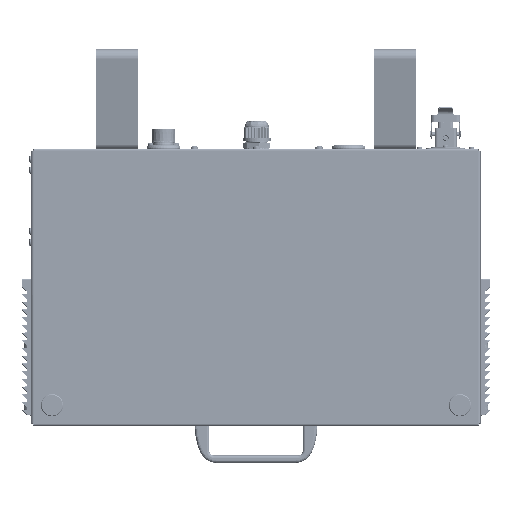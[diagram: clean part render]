
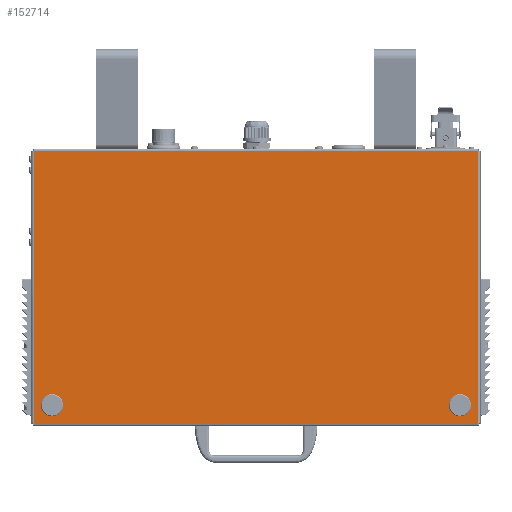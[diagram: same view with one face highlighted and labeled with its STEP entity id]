
A CAD part, front view. The second image highlights one B-rep face of the part: STEP entity #152714.
In plain terms, the highlighted planar face has unit normal (0, -1, 0).
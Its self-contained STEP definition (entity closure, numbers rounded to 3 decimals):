
#128 = AXIS2_PLACEMENT_3D ( 'NONE', #281333, #227507, #310623 ) ;
#8157 = ORIENTED_EDGE ( 'NONE', *, *, #319352, .F. ) ;
#9959 = ORIENTED_EDGE ( 'NONE', *, *, #25915, .F. ) ;
#15572 = CARTESIAN_POINT ( 'NONE',  ( 240.5, -1.2, 146.837 ) ) ;
#16677 = VERTEX_POINT ( 'NONE', #15572 ) ;
#21734 = CARTESIAN_POINT ( 'NONE',  ( -240.5, -1.2, 147.5 ) ) ;
#23512 = DIRECTION ( 'NONE',  ( 0., -1., 0. ) ) ;
#24968 = VERTEX_POINT ( 'NONE', #100980 ) ;
#25915 = EDGE_CURVE ( 'NONE', #16677, #66071, #266883, .T. ) ;
#29010 = DIRECTION ( 'NONE',  ( 0., 1., 0. ) ) ;
#29192 = DIRECTION ( 'NONE',  ( 0., 0., -1. ) ) ;
#30338 = DIRECTION ( 'NONE',  ( 0., -1., 0. ) ) ;
#35104 = CIRCLE ( 'NONE', #329977, 1. ) ;
#43297 = AXIS2_PLACEMENT_3D ( 'NONE', #73261, #208931, #235864 ) ;
#46356 = CIRCLE ( 'NONE', #278440, 4. ) ;
#46550 = CARTESIAN_POINT ( 'NONE',  ( -239.837, -1.2, 147.5 ) ) ;
#51617 = EDGE_LOOP ( 'NONE', ( #315456, #251949 ) ) ;
#55814 = VERTEX_POINT ( 'NONE', #73298 ) ;
#60112 = CARTESIAN_POINT ( 'NONE',  ( -220.5, -1.2, -123.5 ) ) ;
#63519 = CIRCLE ( 'NONE', #135784, 4. ) ;
#64129 = EDGE_CURVE ( 'NONE', #120326, #291894, #276135, .T. ) ;
#66071 = VERTEX_POINT ( 'NONE', #319797 ) ;
#73261 = CARTESIAN_POINT ( 'NONE',  ( -240.793, -1.2, -147.793 ) ) ;
#73298 = CARTESIAN_POINT ( 'NONE',  ( -220.5, -1.2, -131.5 ) ) ;
#79092 = EDGE_LOOP ( 'NONE', ( #146219, #161273 ) ) ;
#81169 = DIRECTION ( 'NONE',  ( 0., -1., 0. ) ) ;
#82367 = EDGE_CURVE ( 'NONE', #158233, #120326, #35104, .T. ) ;
#84010 = DIRECTION ( 'NONE',  ( 0., 0., 1. ) ) ;
#100980 = CARTESIAN_POINT ( 'NONE',  ( 239.837, -1.2, -147.5 ) ) ;
#102088 = VERTEX_POINT ( 'NONE', #229429 ) ;
#104128 = DIRECTION ( 'NONE',  ( 0., 0., -1. ) ) ;
#105422 = DIRECTION ( 'NONE',  ( 0., 0., -1. ) ) ;
#110061 = EDGE_CURVE ( 'NONE', #273769, #231285, #226691, .T. ) ;
#110255 = CARTESIAN_POINT ( 'NONE',  ( -240.5, -1.2, -147.5 ) ) ;
#113654 = EDGE_CURVE ( 'NONE', #291894, #16677, #133096, .T. ) ;
#120326 = VERTEX_POINT ( 'NONE', #46550 ) ;
#131907 = ORIENTED_EDGE ( 'NONE', *, *, #200105, .F. ) ;
#132784 = CARTESIAN_POINT ( 'NONE',  ( 220.5, -1.2, -127.5 ) ) ;
#133096 = CIRCLE ( 'NONE', #128, 1. ) ;
#135784 = AXIS2_PLACEMENT_3D ( 'NONE', #132784, #81169, #242664 ) ;
#138797 = EDGE_CURVE ( 'NONE', #308413, #55814, #46356, .T. ) ;
#139516 = FACE_BOUND ( 'NONE', #51617, .T. ) ;
#141707 = DIRECTION ( 'NONE',  ( 0., 0., -1. ) ) ;
#145678 = EDGE_LOOP ( 'NONE', ( #9959, #180768, #317263, #165880, #8157, #279344, #131907, #268869 ) ) ;
#146219 = ORIENTED_EDGE ( 'NONE', *, *, #228608, .F. ) ;
#152714 = ADVANCED_FACE ( 'NONE', ( #139516, #336261, #248206 ), #293610, .F. ) ;
#158233 = VERTEX_POINT ( 'NONE', #262302 ) ;
#160838 = DIRECTION ( 'NONE',  ( 0., -1., 0. ) ) ;
#161273 = ORIENTED_EDGE ( 'NONE', *, *, #138797, .F. ) ;
#165880 = ORIENTED_EDGE ( 'NONE', *, *, #82367, .F. ) ;
#170020 = CARTESIAN_POINT ( 'NONE',  ( -239.837, -1.2, -147.5 ) ) ;
#173383 = LINE ( 'NONE', #244724, #324262 ) ;
#180768 = ORIENTED_EDGE ( 'NONE', *, *, #113654, .F. ) ;
#181155 = AXIS2_PLACEMENT_3D ( 'NONE', #189505, #30338, #29192 ) ;
#183631 = DIRECTION ( 'NONE',  ( 0., -1., 0. ) ) ;
#187088 = CARTESIAN_POINT ( 'NONE',  ( 220.5, -1.2, -123.5 ) ) ;
#187343 = CARTESIAN_POINT ( 'NONE',  ( 240.5, -1.2, -147.5 ) ) ;
#187662 = CARTESIAN_POINT ( 'NONE',  ( 220.5, -1.2, -131.5 ) ) ;
#188327 = VERTEX_POINT ( 'NONE', #170020 ) ;
#189505 = CARTESIAN_POINT ( 'NONE',  ( 240.793, -1.2, -147.793 ) ) ;
#192037 = DIRECTION ( 'NONE',  ( 0., 0., 1. ) ) ;
#200105 = EDGE_CURVE ( 'NONE', #24968, #188327, #333844, .T. ) ;
#205412 = CIRCLE ( 'NONE', #43297, 1. ) ;
#208931 = DIRECTION ( 'NONE',  ( 0., -1., 0. ) ) ;
#212294 = DIRECTION ( 'NONE',  ( 0., 0., -1. ) ) ;
#213912 = CARTESIAN_POINT ( 'NONE',  ( 0., -1.2, 0. ) ) ;
#214385 = DIRECTION ( 'NONE',  ( -1., 0., 0. ) ) ;
#226691 = CIRCLE ( 'NONE', #313526, 4. ) ;
#227507 = DIRECTION ( 'NONE',  ( 0., -1., 0. ) ) ;
#228608 = EDGE_CURVE ( 'NONE', #55814, #308413, #258750, .T. ) ;
#228962 = VECTOR ( 'NONE', #214385, 1000. ) ;
#229429 = CARTESIAN_POINT ( 'NONE',  ( -240.5, -1.2, -146.837 ) ) ;
#231285 = VERTEX_POINT ( 'NONE', #187662 ) ;
#235851 = DIRECTION ( 'NONE',  ( 1., 0., 0. ) ) ;
#235864 = DIRECTION ( 'NONE',  ( 0., 0., -1. ) ) ;
#242664 = DIRECTION ( 'NONE',  ( 0., 0., -1. ) ) ;
#244724 = CARTESIAN_POINT ( 'NONE',  ( -240.5, -1.2, -147.5 ) ) ;
#248206 = FACE_OUTER_BOUND ( 'NONE', #145678, .T. ) ;
#251286 = CIRCLE ( 'NONE', #181155, 1. ) ;
#251949 = ORIENTED_EDGE ( 'NONE', *, *, #110061, .F. ) ;
#255770 = CARTESIAN_POINT ( 'NONE',  ( -220.5, -1.2, -127.5 ) ) ;
#258750 = CIRCLE ( 'NONE', #325584, 4. ) ;
#262302 = CARTESIAN_POINT ( 'NONE',  ( -240.5, -1.2, 146.837 ) ) ;
#266883 = LINE ( 'NONE', #187343, #317306 ) ;
#268869 = ORIENTED_EDGE ( 'NONE', *, *, #284465, .F. ) ;
#273769 = VERTEX_POINT ( 'NONE', #187088 ) ;
#276135 = LINE ( 'NONE', #21734, #326603 ) ;
#278440 = AXIS2_PLACEMENT_3D ( 'NONE', #255770, #282685, #336598 ) ;
#279344 = ORIENTED_EDGE ( 'NONE', *, *, #313085, .F. ) ;
#281333 = CARTESIAN_POINT ( 'NONE',  ( 240.793, -1.2, 147.793 ) ) ;
#282685 = DIRECTION ( 'NONE',  ( 0., -1., 0. ) ) ;
#284465 = EDGE_CURVE ( 'NONE', #66071, #24968, #251286, .T. ) ;
#288036 = CARTESIAN_POINT ( 'NONE',  ( -240.793, -1.2, 147.793 ) ) ;
#288731 = CARTESIAN_POINT ( 'NONE',  ( 239.837, -1.2, 147.5 ) ) ;
#291894 = VERTEX_POINT ( 'NONE', #288731 ) ;
#292515 = EDGE_CURVE ( 'NONE', #231285, #273769, #63519, .T. ) ;
#293610 = PLANE ( 'NONE',  #301603 ) ;
#294842 = CARTESIAN_POINT ( 'NONE',  ( 220.5, -1.2, -127.5 ) ) ;
#301603 = AXIS2_PLACEMENT_3D ( 'NONE', #213912, #29010, #84010 ) ;
#308413 = VERTEX_POINT ( 'NONE', #60112 ) ;
#310623 = DIRECTION ( 'NONE',  ( 0., 0., -1. ) ) ;
#313085 = EDGE_CURVE ( 'NONE', #188327, #102088, #205412, .T. ) ;
#313526 = AXIS2_PLACEMENT_3D ( 'NONE', #294842, #183631, #104128 ) ;
#315456 = ORIENTED_EDGE ( 'NONE', *, *, #292515, .F. ) ;
#317263 = ORIENTED_EDGE ( 'NONE', *, *, #64129, .F. ) ;
#317306 = VECTOR ( 'NONE', #141707, 1000. ) ;
#319352 = EDGE_CURVE ( 'NONE', #102088, #158233, #173383, .T. ) ;
#319797 = CARTESIAN_POINT ( 'NONE',  ( 240.5, -1.2, -146.837 ) ) ;
#321229 = CARTESIAN_POINT ( 'NONE',  ( -220.5, -1.2, -127.5 ) ) ;
#324262 = VECTOR ( 'NONE', #192037, 1000. ) ;
#325584 = AXIS2_PLACEMENT_3D ( 'NONE', #321229, #160838, #212294 ) ;
#326603 = VECTOR ( 'NONE', #235851, 1000. ) ;
#329977 = AXIS2_PLACEMENT_3D ( 'NONE', #288036, #23512, #105422 ) ;
#333844 = LINE ( 'NONE', #110255, #228962 ) ;
#336261 = FACE_BOUND ( 'NONE', #79092, .T. ) ;
#336598 = DIRECTION ( 'NONE',  ( 0., 0., -1. ) ) ;
